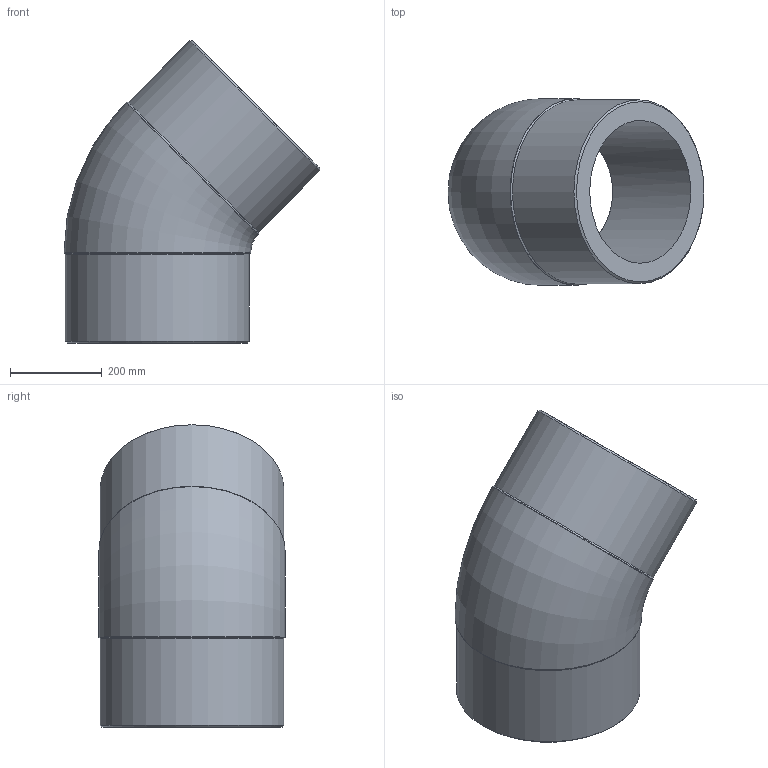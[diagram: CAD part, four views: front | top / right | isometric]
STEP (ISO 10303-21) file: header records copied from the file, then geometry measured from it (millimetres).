
FILE_DESCRIPTION(/* description */ ('Unknown'),/* implementation_level */ '2;1');
FILE_NAME(/* name */ 'G4P400G',/* time_stamp */ '2022-01-20T17:32:21+01:00',/* author */ ('Unknown'),/* organization */ ('Unknown'),/* preprocessor_version */ 'ST-DEVELOPER v18.1',/* originating_system */ 'Solid Edge',/* authorisation */ 'Unknown');
FILE_SCHEMA (('AUTOMOTIVE_DESIGN {1 0 10303 214 3 1 1}'));
Length unit declared in the file: millimetre
Products named in the file (1): G4P400G
Bounding box: 556.55 x 406 x 657.55 mm (x, y, z)
Volume: 30682964.1 mm3; surface area: 1433893.6 mm2
Topology: 1 solids, 1 shells, 14 faces, 34 edges, 22 vertices
Faces by surface type: cylinder 6, cone 4, plane 2, torus 2
Full cylindrical faces by diameter (mm): 310.6 x2, 400 x2, 406 x2
Entity records: 370 total; most frequent: CARTESIAN_POINT 70, DIRECTION 60, ORIENTED_EDGE 38, AXIS2_PLACEMENT_3D 30, EDGE_LOOP 27, FACE_BOUND 27, EDGE_CURVE 19, VERTEX_POINT 18
